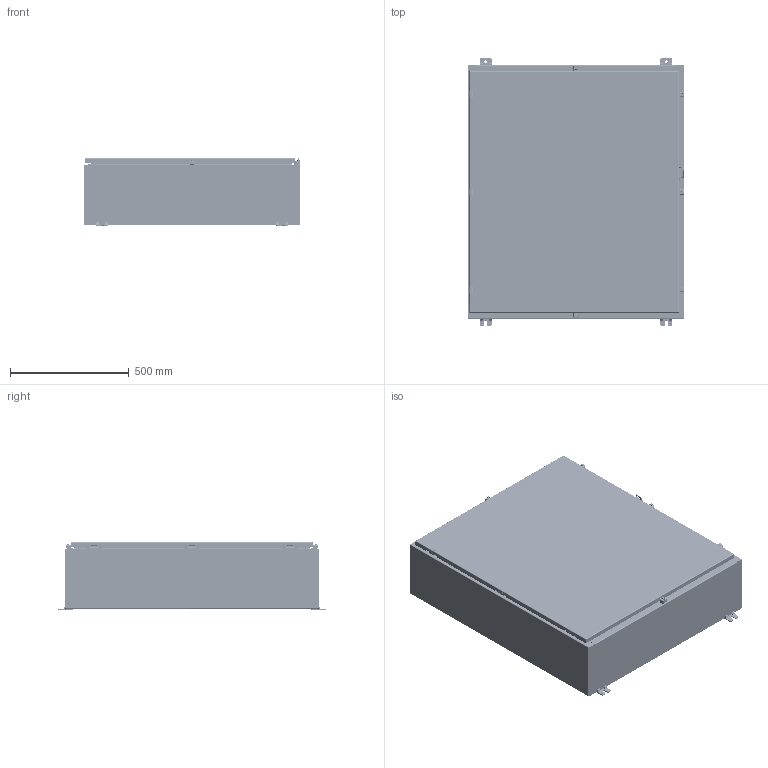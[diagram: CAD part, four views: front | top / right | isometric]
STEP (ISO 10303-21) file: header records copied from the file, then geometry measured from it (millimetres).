
FILE_DESCRIPTION((''),'2;1');
FILE_NAME('MODEL-309_ASM','2026-07-10T13:20:08',('joshi'),('SAGINAW CONTROL & ENGINEERING'),'CREO PARAMETRIC BY PTC INC, 2021284','CREO PARAMETRIC BY PTC INC, 2021284','');
FILE_SCHEMA(('AUTOMOTIVE_DESIGN { 1 0 10303 214 1 1 1 1 }'));
Length unit declared in the file: inch
Products named in the file (36): MODEL-309-BDY; MODEL-309-TP; MODEL-309-BTM; MODEL-309-DR; 100837; 100882; 111267; MODEL-309-DOOR-GASKET; 126391; 126391_ASM; 126393; 102483; 101226; 101376; 102140; 115117; MODEL-309-DOOR-ASSY_ASM; 101653; 121454; 120132_BASE; 120132_CLAMP; 120132_SCREW; 120132_SPRING; 120132_ASM; 120133; SUBPANEL; 100904; SUBPANEL-SUBASSEMBLY_ASM; 128630; 100059; 128630_ASM; 128631; 128631_ASM; 100921; 125493_ASM; MODEL-309_ASM
Assembly tree (88 placements, depth 4):
  MODEL-309_ASM
    MODEL-309-BDY
    MODEL-309-TP
    MODEL-309-BTM
    MODEL-309-DOOR-ASSY_ASM
      MODEL-309-DR
      100837  x3
      100882  x2
      111267
      MODEL-309-DOOR-GASKET
      126391_ASM  x3
        126391
      126393  x3
      102483  x10
      101226  x3
      101376  x3
      102140  x3
      115117
    100837
    101653  x8
    121454
    120132_ASM  x5
      120132_BASE
      120132_CLAMP
      120132_SCREW
      120132_SPRING
    100882  x6
    120133
    SUBPANEL-SUBASSEMBLY_ASM
      SUBPANEL
      100904  x8
    125493_ASM
      128630_ASM  x2
        128630
        100059
      128631_ASM  x2
        128631
        100059
      100921  x4
Bounding box: 914.4 x 1130.3 x 287.73 mm (x, y, z)
Volume: 9530481.9 mm3; surface area: 8565321 mm2
Topology: 97 solids, 97 shells, 7060 faces, 18302 edges, 11567 vertices
Faces by surface type: plane 2644, cylinder 1800, bspline 1529, torus 686, cone 234, sphere 167
Entity records: 120593 total; most frequent: CARTESIAN_POINT 36891, ORIENTED_EDGE 12402, DIRECTION 12087, PRESENTATION_STYLE_ASSIGNMENT 6334, STYLED_ITEM 6334, CURVE_STYLE 6201, EDGE_CURVE 6201, AXIS2_PLACEMENT_3D 4486
